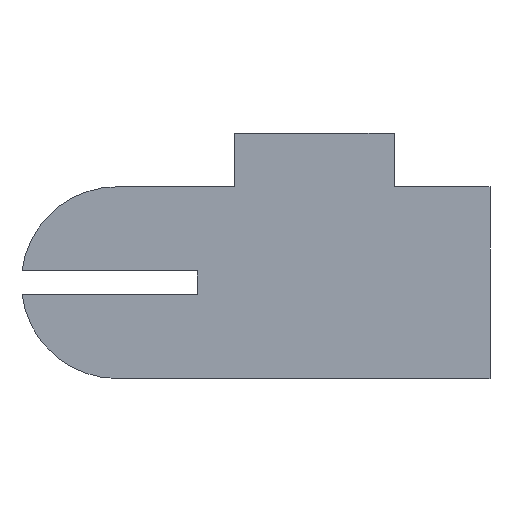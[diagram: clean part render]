
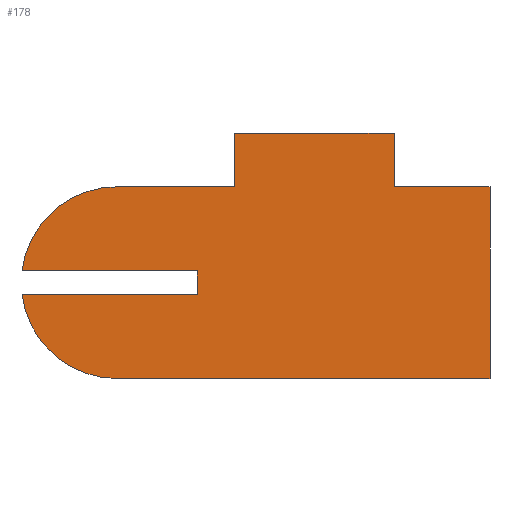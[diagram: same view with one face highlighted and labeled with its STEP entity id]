
A CAD part, front view. The second image highlights one B-rep face of the part: STEP entity #178.
In plain terms, the highlighted planar face has unit normal (0, -1, 0).
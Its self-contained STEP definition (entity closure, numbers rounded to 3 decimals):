
#32 = VERTEX_POINT('',#33);
#33 = CARTESIAN_POINT('',(-70.,-11.,-2.));
#39 = EDGE_CURVE('',#32,#40,#42,.T.);
#40 = VERTEX_POINT('',#41);
#41 = CARTESIAN_POINT('',(-48.,-11.,-2.));
#42 = LINE('',#43,#44);
#43 = CARTESIAN_POINT('',(-70.,-11.,-2.));
#44 = VECTOR('',#45,1.);
#45 = DIRECTION('',(1.,0.,-0.));
#158 = EDGE_CURVE('',#40,#159,#161,.T.);
#159 = VERTEX_POINT('',#160);
#160 = CARTESIAN_POINT('',(-48.,-11.,8.));
#161 = LINE('',#162,#163);
#162 = CARTESIAN_POINT('',(-48.,-11.,-2.));
#163 = VECTOR('',#164,1.);
#164 = DIRECTION('',(0.,0.,1.));
#178 = ADVANCED_FACE('',(#179),#263,.T.);
#179 = FACE_BOUND('',#180,.T.);
#180 = EDGE_LOOP('',(#181,#192,#200,#208,#216,#224,#230,#231,#232,#241,
    #249,#257));
#181 = ORIENTED_EDGE('',*,*,#182,.F.);
#182 = EDGE_CURVE('',#183,#185,#187,.T.);
#183 = VERTEX_POINT('',#184);
#184 = CARTESIAN_POINT('',(-70.,-11.,-38.));
#185 = VERTEX_POINT('',#186);
#186 = CARTESIAN_POINT('',(-87.865,-11.,-22.2));
#187 = CIRCLE('',#188,18.);
#188 = AXIS2_PLACEMENT_3D('',#189,#190,#191);
#189 = CARTESIAN_POINT('',(-70.,-11.,-20.));
#190 = DIRECTION('',(0.,1.,0.));
#191 = DIRECTION('',(0.,-0.,1.));
#192 = ORIENTED_EDGE('',*,*,#193,.T.);
#193 = EDGE_CURVE('',#183,#194,#196,.T.);
#194 = VERTEX_POINT('',#195);
#195 = CARTESIAN_POINT('',(0.,-11.,-38.));
#196 = LINE('',#197,#198);
#197 = CARTESIAN_POINT('',(-70.,-11.,-38.));
#198 = VECTOR('',#199,1.);
#199 = DIRECTION('',(1.,0.,-0.));
#200 = ORIENTED_EDGE('',*,*,#201,.T.);
#201 = EDGE_CURVE('',#194,#202,#204,.T.);
#202 = VERTEX_POINT('',#203);
#203 = CARTESIAN_POINT('',(0.,-11.,-2.));
#204 = LINE('',#205,#206);
#205 = CARTESIAN_POINT('',(0.,-11.,-38.));
#206 = VECTOR('',#207,1.);
#207 = DIRECTION('',(0.,0.,1.));
#208 = ORIENTED_EDGE('',*,*,#209,.F.);
#209 = EDGE_CURVE('',#210,#202,#212,.T.);
#210 = VERTEX_POINT('',#211);
#211 = CARTESIAN_POINT('',(-18.,-11.,-2.));
#212 = LINE('',#213,#214);
#213 = CARTESIAN_POINT('',(-70.,-11.,-2.));
#214 = VECTOR('',#215,1.);
#215 = DIRECTION('',(1.,0.,-0.));
#216 = ORIENTED_EDGE('',*,*,#217,.T.);
#217 = EDGE_CURVE('',#210,#218,#220,.T.);
#218 = VERTEX_POINT('',#219);
#219 = CARTESIAN_POINT('',(-18.,-11.,8.));
#220 = LINE('',#221,#222);
#221 = CARTESIAN_POINT('',(-18.,-11.,-2.));
#222 = VECTOR('',#223,1.);
#223 = DIRECTION('',(0.,0.,1.));
#224 = ORIENTED_EDGE('',*,*,#225,.F.);
#225 = EDGE_CURVE('',#159,#218,#226,.T.);
#226 = LINE('',#227,#228);
#227 = CARTESIAN_POINT('',(-48.,-11.,8.));
#228 = VECTOR('',#229,1.);
#229 = DIRECTION('',(1.,0.,-0.));
#230 = ORIENTED_EDGE('',*,*,#158,.F.);
#231 = ORIENTED_EDGE('',*,*,#39,.F.);
#232 = ORIENTED_EDGE('',*,*,#233,.F.);
#233 = EDGE_CURVE('',#234,#32,#236,.T.);
#234 = VERTEX_POINT('',#235);
#235 = CARTESIAN_POINT('',(-87.865,-11.,-17.8));
#236 = CIRCLE('',#237,18.);
#237 = AXIS2_PLACEMENT_3D('',#238,#239,#240);
#238 = CARTESIAN_POINT('',(-70.,-11.,-20.));
#239 = DIRECTION('',(0.,1.,0.));
#240 = DIRECTION('',(0.,-0.,1.));
#241 = ORIENTED_EDGE('',*,*,#242,.F.);
#242 = EDGE_CURVE('',#243,#234,#245,.T.);
#243 = VERTEX_POINT('',#244);
#244 = CARTESIAN_POINT('',(-55.,-11.,-17.8));
#245 = LINE('',#246,#247);
#246 = CARTESIAN_POINT('',(-64.802,-11.,-17.8));
#247 = VECTOR('',#248,1.);
#248 = DIRECTION('',(-1.,0.,0.));
#249 = ORIENTED_EDGE('',*,*,#250,.F.);
#250 = EDGE_CURVE('',#251,#243,#253,.T.);
#251 = VERTEX_POINT('',#252);
#252 = CARTESIAN_POINT('',(-55.,-11.,-22.2));
#253 = LINE('',#254,#255);
#254 = CARTESIAN_POINT('',(-55.,-11.,-19.58));
#255 = VECTOR('',#256,1.);
#256 = DIRECTION('',(0.,-0.,1.));
#257 = ORIENTED_EDGE('',*,*,#258,.T.);
#258 = EDGE_CURVE('',#251,#185,#259,.T.);
#259 = LINE('',#260,#261);
#260 = CARTESIAN_POINT('',(-64.802,-11.,-22.2));
#261 = VECTOR('',#262,1.);
#262 = DIRECTION('',(-1.,0.,0.));
#263 = PLANE('',#264);
#264 = AXIS2_PLACEMENT_3D('',#265,#266,#267);
#265 = CARTESIAN_POINT('',(-39.605,-11.,-16.96));
#266 = DIRECTION('',(-0.,-1.,-0.));
#267 = DIRECTION('',(0.,0.,-1.));
